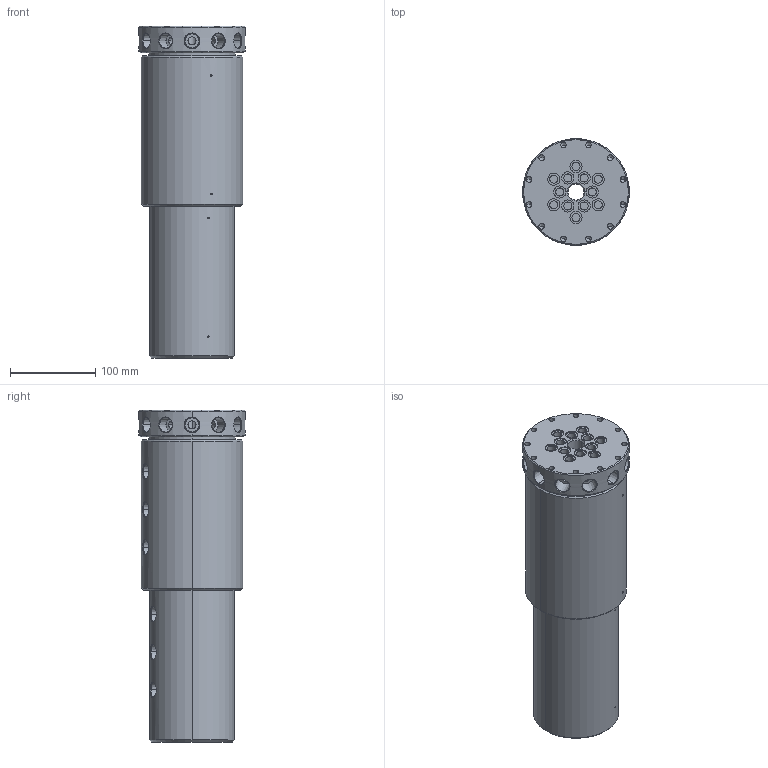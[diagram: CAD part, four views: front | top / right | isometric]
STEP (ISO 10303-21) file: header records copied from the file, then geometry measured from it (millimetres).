
FILE_DESCRIPTION (( 'STEP AP214' ), '1' );
FILE_NAME ('GP(M)-301-12.STEP', '2013-02-05T22:36:31', ( '' ), ( '' ), 'SwSTEP 2.0', 'SolidWorks 2011', '' );
FILE_SCHEMA (( 'AUTOMOTIVE_DESIGN' ));
Length unit declared in the file: inch
Products named in the file (1): GP(M)-301-12
Bounding box: 125.4 x 125.4 x 390.47 mm (x, y, z)
Volume: 3504559.3 mm3; surface area: 235046.2 mm2
Topology: 1 solids, 1 shells, 437 faces, 1084 edges, 655 vertices
Faces by surface type: cylinder 181, cone 138, plane 68, bspline 48, torus 2
Entity records: 19478 total; most frequent: CARTESIAN_POINT 8559, ORIENTED_EDGE 2020, DIRECTION 1932, EDGE_CURVE 1010, AXIS2_PLACEMENT_3D 792, VERTEX_POINT 655, EDGE_LOOP 543, ADVANCED_FACE 437
